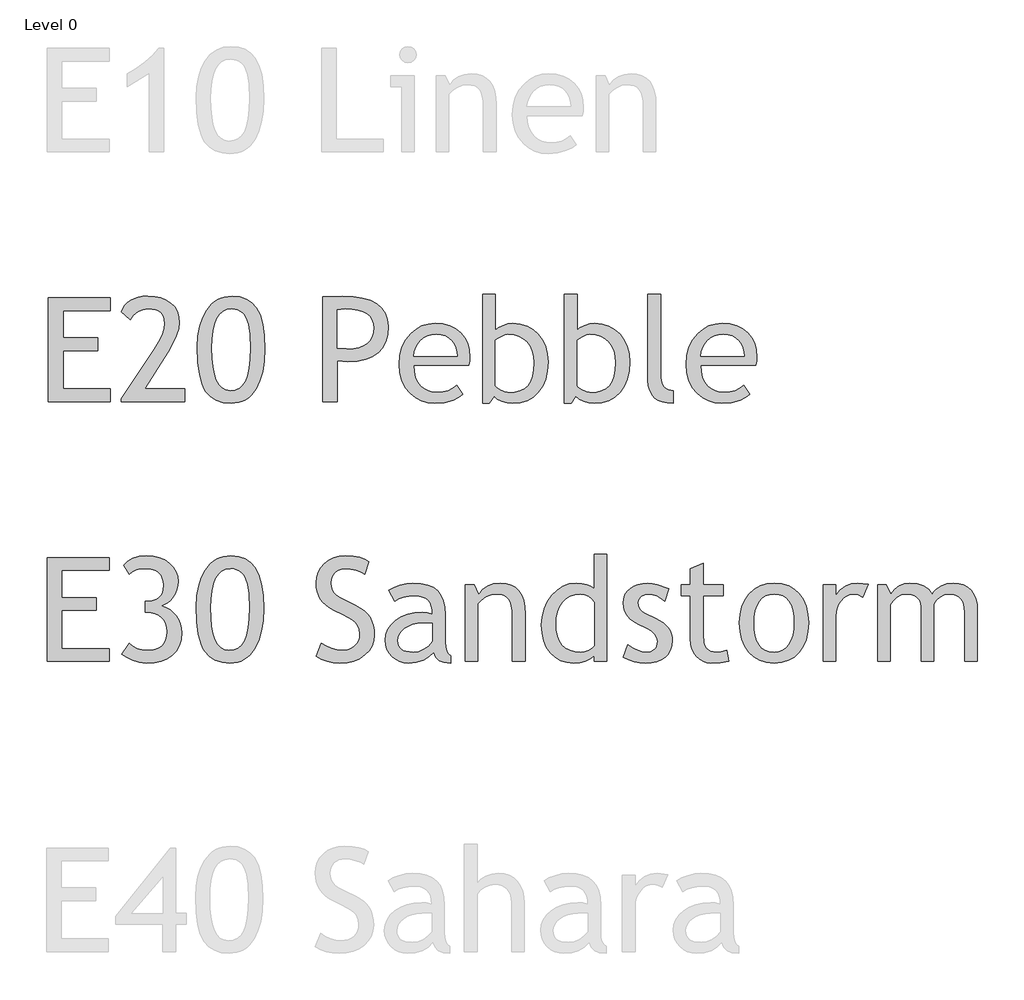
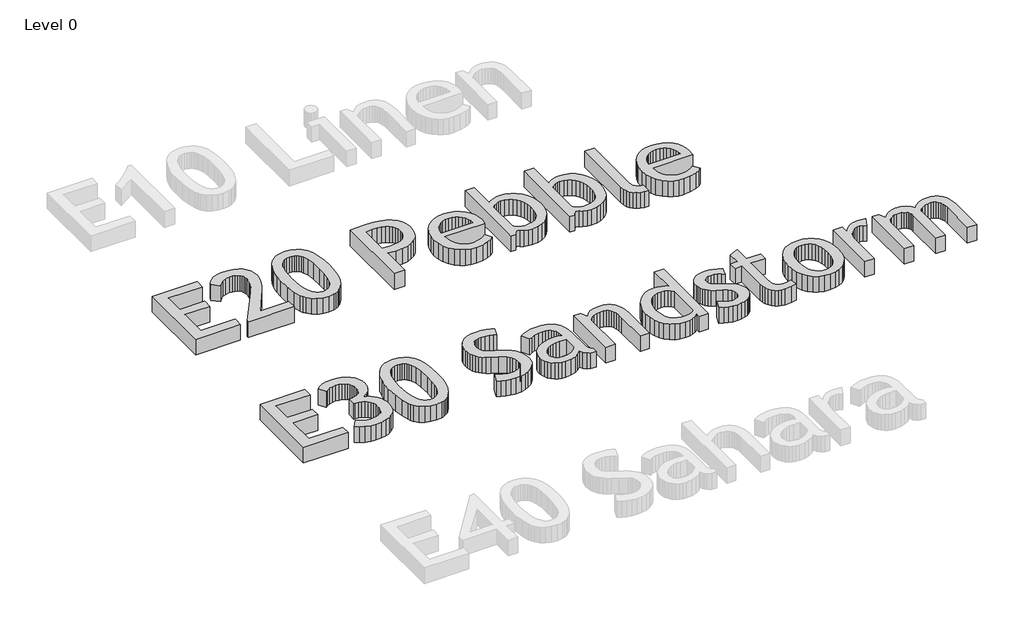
# One storey, part 4 of 5: 2 proxies.
"""IFC4 building model written with IfcOpenShell, lengths in millimetres."""

from ifc_helpers import new_model, si_unit, origin, origin_with_axes, place, context, project, spatial, polyline, outline, extrude, element, save

model = new_model("IFC4")

# Units and contexts
model_context = context("Model", 3, world=origin())
ifc_project = project(units=[si_unit("LENGTHUNIT", "METRE", prefix="MILLI")], contexts=[model_context])

# Site, building, storey
site = spatial("IfcSite", under=ifc_project)
building = spatial("IfcBuilding", under=site)
storey = spatial("IfcBuildingStorey", under=building, Name="Level 0", Elevation=0.0)

# Proxies
placement = place(None, origin())
element("IfcBuildingElementProxy", 1, Name="600mm Arial", ObjectType="600mm Arial", at=placement, inside=storey, context=model_context, shape_type="SweptSolid", body=[
    extrude(outline(polyline([(-18092.8509162, 3245.4135997), (-18092.8509162, 3067.447498), (-17867.4271874, 3067.447498), (-17867.4271874, 2984.3966505), (-18092.8509162, 2984.3966505), (-18092.8509162, 2735.2441082), (-17784.3763399, 2735.2441082), (-17784.3763399, 2652.1932607), (-18187.7661704, 2652.1932607), (-18187.7661704, 3328.4644471), (-17784.3763399, 3328.4644471), (-17784.3763399, 3245.4135997), (-18092.8509162, 3245.4135997)])), origin_with_axes(), (0.0, 0.0, 1.0), 150.0),
    extrude(outline(polyline([(-17713.1898992, 2652.1932607), (-17713.1898992, 2670.5460149), (-17496.4790941, 2992.5534302), (-17466.7138002, 3041.2392088), (-17445.4528759, 3086.0783243), (-17432.6963214, 3127.0707766), (-17428.4441365, 3164.2165658), (-17430.1096721, 3186.0278409), (-17435.106279, 3204.9309461), (-17443.4339571, 3220.9258812), (-17455.0927064, 3234.0126463), (-17470.082527, 3244.1912414), (-17488.4034188, 3251.4616664), (-17510.0553819, 3255.8239215), (-17535.0384162, 3257.2780065), (-17571.6744066, 3252.2263645), (-17605.9467848, 3237.0714387), (-17634.472341, 3214.2231865), (-17653.8678653, 3186.0915658), (-17713.1898992, 3237.25682), (-17703.4284122, 3259.6068597), (-17689.9013664, 3279.5701145), (-17672.6087618, 3297.1465843), (-17651.5505984, 3312.3362692), (-17627.4104699, 3324.583025), (-17600.8719702, 3333.3307077), (-17571.9350992, 3338.5793174), (-17540.5998569, 3340.3288539), (-17494.5905216, 3337.5191677), (-17453.8877276, 3329.0901092), (-17418.491475, 3315.0416783), (-17388.4017636, 3295.3738751), (-17364.394878, 3270.5617392), (-17347.2471026, 3241.0803105), (-17336.9584374, 3206.9295888), (-17333.5288823, 3168.1095743), (-17338.1054845, 3127.6153343), (-17351.8352912, 3082.1389704), (-17374.7183023, 3031.6804826), (-17406.7545179, 2976.2398709), (-17558.9526111, 2735.2441082), (-17297.9356619, 2735.2441082), (-17297.9356619, 2652.1932607), (-17713.1898992, 2652.1932607)])), origin_with_axes(), (0.0, 0.0, 1.0), 150.0),
    extrude(outline(polyline([(-17214.8848145, 3009.6085149), (-17211.1829805, 3079.3640433), (-17200.0774787, 3142.3647385), (-17181.5683089, 3198.6106005), (-17155.6554713, 3248.1016293), (-17123.0341458, 3288.4510401), (-17104.4684927, 3304.3025943), (-17084.3995126, 3317.2720478), (-17062.8272056, 3327.3594005), (-17039.7515716, 3334.5646524), (-16989.090323, 3340.3288539), (-16939.1995655, 3335.520525), (-16895.9361916, 3321.0955382), (-16859.3002011, 3297.0538936), (-16829.2915941, 3263.3955912), (-16805.9335433, 3217.7570186), (-16789.2492213, 3157.7745637), (-16779.238628, 3083.4482263), (-16775.9017636, 2994.7780065), (-16779.4008367, 2916.6745239), (-16789.898056, 2847.3534832), (-16807.3934215, 2786.8148841), (-16831.8869331, 2735.0587268), (-16863.1121053, 2693.6144074), (-16881.1491319, 2677.3327105), (-16900.8024522, 2664.0113221), (-16922.0720662, 2653.6502423), (-16944.9579739, 2646.249471), (-16995.5786704, 2640.3288539), (-17046.2630918, 2645.108217), (-17090.4244066, 2659.4463062), (-17128.0626151, 2683.3431217), (-17159.177717, 2716.7986632), (-17172.234068, 2738.101588), (-17183.5495722, 2763.7754575), (-17200.9580401, 2828.2360308), (-17211.4031209, 2910.1803833), (-17214.8848145, 3009.6085149)]), holes=[polyline([(-17119.9695603, 3001.0809726), (-17118.1244364, 2935.9947371), (-17112.589065, 2879.5866664), (-17103.363446, 2831.8567604), (-17090.4475793, 2792.8050192), (-17073.841465, 2762.4314426), (-17053.5451032, 2740.7360308), (-17029.5584936, 2727.7187837), (-17001.8816365, 2723.3797014), (-16970.3725992, 2727.2263645), (-16943.3243007, 2738.7663539), (-16920.7367411, 2757.9996696), (-16902.6099204, 2784.9263115), (-16888.7005256, 2821.4811977), (-16878.7652435, 2869.5992459), (-16872.8040743, 2929.2804561), (-16870.8170179, 3000.5248285), (-16873.8758103, 3092.6361897), (-16883.0521874, 3156.5232395), (-16899.0413293, 3200.2268942), (-16909.8513796, 3217.5252919), (-16922.5384162, 3231.78807), (-16937.06768, 3242.9399172), (-16953.4044119, 3250.9055224), (-16971.5486122, 3255.6848854), (-16991.5002806, 3257.2780065), (-17021.610268, 3253.2749278), (-17047.7055904, 3241.2656918), (-17069.7862479, 3221.2502986), (-17087.8522403, 3193.228748), (-17101.9035678, 3157.2010401), (-17111.9402303, 3113.1671749), (-17117.9622278, 3061.1271524), (-17119.9695603, 3001.0809726)])]), origin_with_axes(), (0.0, 0.0, 1.0), 150.0),
    extrude(outline(polyline([(-16301.3254925, 2917.8447437), (-16301.3254925, 2652.1932607), (-16396.2407467, 2652.1932607), (-16396.2407467, 3335.69432), (-16267.9568484, 3340.3288539), (-16197.9174548, 3337.2353025), (-16137.2166471, 3327.9546484), (-16085.8544252, 3312.4868915), (-16043.8307891, 3290.8320319), (-16011.1457387, 3262.9900695), (-15987.7992742, 3228.9610043), (-15973.7913955, 3188.7448364), (-15969.1221026, 3142.3415658), (-15973.2352515, 3088.6389042), (-15985.574698, 3042.0965976), (-16006.1404421, 3002.7146458), (-16034.932484, 2970.4930488), (-16071.9508235, 2945.4318068), (-16117.1954607, 2927.5309196), (-16170.6663955, 2916.7903873), (-16232.363628, 2913.2102099), (-16301.3254925, 2917.8447437)]), holes=[polyline([(-16301.3254925, 3252.6434726), (-16301.3254925, 3000.8955912), (-16238.4812128, 2996.2610573), (-16197.5959341, 2998.3900463), (-16162.1620258, 3004.7770133), (-16132.1794881, 3015.4219584), (-16107.6483208, 3030.3248815), (-16088.5685241, 3049.4857825), (-16074.9400979, 3072.9046617), (-16066.7630421, 3100.5815188), (-16064.0373569, 3132.5163539), (-16066.9455269, 3161.7573662), (-16075.6700369, 3187.0995769), (-16090.2108871, 3208.5429859), (-16110.5680772, 3226.0875933), (-16136.7416074, 3239.7333991), (-16168.7314776, 3249.4804032), (-16206.5376879, 3255.3286056), (-16250.1602382, 3257.2780065), (-16301.3254925, 3252.6434726)])]), origin_with_axes(), (0.0, 0.0, 1.0), 150.0),
    extrude(outline(polyline([(-15442.2682891, 2889.4813963), (-15803.0204077, 2889.4813963), (-15800.0311333, 2847.6547279), (-15791.0633103, 2810.9723921), (-15776.1169384, 2779.4343889), (-15755.1920179, 2753.0407183), (-15732.4712154, 2734.8733454), (-15706.7611386, 2721.8966505), (-15678.0617875, 2714.1106336), (-15646.3731619, 2711.5152946), (-15610.0384162, 2714.4813963), (-15576.8551535, 2723.3797014), (-15546.8233738, 2738.2102099), (-15519.9430772, 2758.9729217), (-15482.6814247, 2699.6508878), (-15508.7275052, 2679.0735573), (-15545.7110857, 2661.4623285), (-15601.9743272, 2645.6122226), (-15664.3551535, 2640.3288539), (-15709.750413, 2644.3493121), (-15751.5770814, 2656.4106865), (-15789.8351588, 2676.5129773), (-15824.524645, 2704.6561844), (-15856.6419649, 2743.2039201), (-15879.5829077, 2787.8460679), (-15893.3474734, 2838.5826278), (-15897.9356619, 2895.4135997), (-15893.2200237, 2954.6197702), (-15879.073109, 3007.6620107), (-15855.4949178, 3054.5403211), (-15822.4854501, 3095.2547014), (-15787.1934744, 3124.6144736), (-15748.7963611, 3145.5857395), (-15707.29411, 3158.168499), (-15662.6867213, 3162.3627522), (-15611.8458844, 3158.5276754), (-15566.8445603, 3147.022445), (-15527.6827488, 3127.847061), (-15494.3604501, 3101.0015234), (-15468.4881646, 3069.1159302), (-15450.0079607, 3032.4104217), (-15438.9198383, 2990.884998), (-15435.2237975, 2944.539659), (-15436.9849204, 2915.8518942), (-15442.2682891, 2889.4813963)]), holes=[polyline([(-15656.0129925, 3091.1763115), (-15685.280074, 3088.5346272), (-15712.0908526, 3080.6095743), (-15736.4453283, 3067.4011526), (-15758.3435009, 3048.9093624), (-15775.9431434, 3027.5673338), (-15789.255842, 3003.7690022), (-15798.2815968, 2977.5143677), (-15803.0204077, 2948.8034302), (-15518.274645, 2948.8034302), (-15520.4297033, 2977.2362957), (-15526.894878, 3003.2128582), (-15537.6701694, 3026.7331177), (-15552.7555772, 3047.7970743), (-15573.4603574, 3066.7754906), (-15597.57152, 3080.3315022), (-15625.089065, 3088.4651092), (-15656.0129925, 3091.1763115)])]), origin_with_axes(), (0.0, 0.0, 1.0), 150.0),
    extrude(outline(polyline([(-15277.8350264, 2685.3765234), (-15308.6083314, 2640.3288539), (-15352.1729501, 2640.3288539), (-15352.1729501, 3352.1932607), (-15269.1221026, 3352.1932607), (-15269.1221026, 3116.388176), (-15251.0242478, 3132.9102893), (-15221.9425475, 3147.9956971), (-15187.6701694, 3158.7709885), (-15154.0002806, 3162.3627522), (-15105.349261, 3157.8962202), (-15061.5413293, 3144.496624), (-15022.5764856, 3122.1639638), (-14988.4547297, 3090.8982395), (-14960.7170444, 3052.8197504), (-14940.9044119, 3010.0487957), (-14929.0168325, 2962.5853754), (-14925.054306, 2910.4294895), (-14928.9820735, 2850.8525562), (-14940.7653759, 2797.9956971), (-14960.4042133, 2751.8589122), (-14987.8985857, 2712.4422014), (-15022.1014458, 2680.8926119), (-15061.8657467, 2658.3571908), (-15107.1914882, 2644.8359381), (-15158.0786704, 2640.3288539), (-15192.6522933, 2643.6425457), (-15226.6697721, 2653.5836209), (-15256.3307891, 2668.15923), (-15277.8350264, 2685.3765234)]), holes=[polyline([(-15269.1221026, 3050.9485573), (-15269.1221026, 2754.1530065), (-15260.9421503, 2744.0728952), (-15236.4022933, 2729.0338327), (-15207.5986651, 2715.8949291), (-15186.6273992, 2711.5152946), (-15145.119355, 2714.3076013), (-15109.9490359, 2722.6845213), (-15081.1164419, 2736.6460547), (-15058.621573, 2756.1922014), (-15041.7113174, 2782.3077999), (-15029.6325634, 2815.9776887), (-15022.385311, 2857.2018677), (-15019.9695603, 2905.980337), (-15022.7908328, 2947.239275), (-15031.2546503, 2983.7014704), (-15045.3610128, 3015.3669233), (-15065.1099204, 3042.2356336), (-15089.6323979, 3063.6471802), (-15118.0594702, 3078.9411421), (-15150.3911373, 3088.1175192), (-15186.6273992, 3091.1763115), (-15205.9302329, 3087.5845478), (-15231.582378, 3076.8092565), (-15255.3807096, 3063.1605541), (-15269.1221026, 3050.9485573)])]), origin_with_axes(), (0.0, 0.0, 1.0), 150.0),
    extrude(outline(polyline([(-14743.9367213, 2685.3765234), (-14774.7100264, 2640.3288539), (-14818.274645, 2640.3288539), (-14818.274645, 3352.1932607), (-14735.2237975, 3352.1932607), (-14735.2237975, 3116.388176), (-14717.1259427, 3132.9102893), (-14688.0442425, 3147.9956971), (-14653.7718643, 3158.7709885), (-14620.1019755, 3162.3627522), (-14571.4509559, 3157.8962202), (-14527.6430242, 3144.496624), (-14488.6781805, 3122.1639638), (-14454.5564247, 3090.8982395), (-14426.8187393, 3052.8197504), (-14407.0061069, 3010.0487957), (-14395.1185274, 2962.5853754), (-14391.1560009, 2910.4294895), (-14395.0837684, 2850.8525562), (-14406.8670708, 2797.9956971), (-14426.5059082, 2751.8589122), (-14454.0002806, 2712.4422014), (-14488.2031408, 2680.8926119), (-14527.9674416, 2658.3571908), (-14573.2931831, 2644.8359381), (-14624.1803653, 2640.3288539), (-14658.7539882, 2643.6425457), (-14692.771467, 2653.5836209), (-14722.432484, 2668.15923), (-14743.9367213, 2685.3765234)]), holes=[polyline([(-14735.2237975, 3050.9485573), (-14735.2237975, 2754.1530065), (-14727.0438452, 2744.0728952), (-14702.5039882, 2729.0338327), (-14673.70036, 2715.8949291), (-14652.7290941, 2711.5152946), (-14611.2210499, 2714.3076013), (-14576.0507308, 2722.6845213), (-14547.2181368, 2736.6460547), (-14524.7232679, 2756.1922014), (-14507.8130123, 2782.3077999), (-14495.7342583, 2815.9776887), (-14488.487006, 2857.2018677), (-14486.0712552, 2905.980337), (-14488.8925277, 2947.239275), (-14497.3563452, 2983.7014704), (-14511.4627078, 3015.3669233), (-14531.2116153, 3042.2356336), (-14555.7340928, 3063.6471802), (-14584.1611651, 3078.9411421), (-14616.4928322, 3088.1175192), (-14652.7290941, 3091.1763115), (-14672.0319278, 3087.5845478), (-14697.684073, 3076.8092565), (-14721.4824045, 3063.1605541), (-14735.2237975, 3050.9485573)])]), origin_with_axes(), (0.0, 0.0, 1.0), 150.0),
    extrude(outline(polyline([(-14272.5119331, 2790.6731336), (-14272.5119331, 3352.1932607), (-14189.4610857, 3352.1932607), (-14189.4610857, 2808.8405065), (-14183.7142636, 2773.3631495), (-14176.5307361, 2758.7701609), (-14166.4737975, 2746.2742988), (-14154.099592, 2736.2579124), (-14139.9642636, 2729.1033507), (-14106.4102382, 2723.3797014), (-14106.4102382, 2640.3288539), (-14145.340323, 2642.6779833), (-14179.0797297, 2649.7253714), (-14207.6284586, 2661.4710182), (-14230.9865094, 2677.9149238), (-14249.1538823, 2699.0570882), (-14262.1305772, 2724.8975112), (-14269.9165941, 2755.436193), (-14272.5119331, 2790.6731336)])), origin_with_axes(), (0.0, 0.0, 1.0), 150.0),
    extrude(outline(polyline([(-13567.6920179, 2889.4813963), (-13928.4441365, 2889.4813963), (-13925.4548622, 2847.6547279), (-13916.4870391, 2810.9723921), (-13901.5406672, 2779.4343889), (-13880.6157467, 2753.0407183), (-13857.8949443, 2734.8733454), (-13832.1848675, 2721.8966505), (-13803.4855163, 2714.1106336), (-13771.7968908, 2711.5152946), (-13735.462145, 2714.4813963), (-13702.2788823, 2723.3797014), (-13672.2471026, 2738.2102099), (-13645.366806, 2758.9729217), (-13608.1051535, 2699.6508878), (-13634.151234, 2679.0735573), (-13671.1348145, 2661.4623285), (-13727.398056, 2645.6122226), (-13789.7788823, 2640.3288539), (-13835.1741418, 2644.3493121), (-13877.0008103, 2656.4106865), (-13915.2588876, 2676.5129773), (-13949.9483738, 2704.6561844), (-13982.0656937, 2743.2039201), (-14005.0066365, 2787.8460679), (-14018.7712022, 2838.5826278), (-14023.3593908, 2895.4135997), (-14018.6437525, 2954.6197702), (-14004.4968378, 3007.6620107), (-13980.9186466, 3054.5403211), (-13947.9091789, 3095.2547014), (-13912.6172033, 3124.6144736), (-13874.2200899, 3145.5857395), (-13832.7178389, 3158.168499), (-13788.1104501, 3162.3627522), (-13737.2696132, 3158.5276754), (-13692.2682891, 3147.022445), (-13653.1064776, 3127.847061), (-13619.7841789, 3101.0015234), (-13593.9118934, 3069.1159302), (-13575.4316895, 3032.4104217), (-13564.3435671, 2990.884998), (-13560.6475264, 2944.539659), (-13562.4086492, 2915.8518942), (-13567.6920179, 2889.4813963)]), holes=[polyline([(-13781.4367213, 3091.1763115), (-13810.7038028, 3088.5346272), (-13837.5145814, 3080.6095743), (-13861.8690571, 3067.4011526), (-13883.7672297, 3048.9093624), (-13901.3668722, 3027.5673338), (-13914.6795708, 3003.7690022), (-13923.7053256, 2977.5143677), (-13928.4441365, 2948.8034302), (-13643.6983738, 2948.8034302), (-13645.8534321, 2977.2362957), (-13652.3186069, 3003.2128582), (-13663.0938982, 3026.7331177), (-13678.179306, 3047.7970743), (-13698.8840862, 3066.7754906), (-13722.9952488, 3080.3315022), (-13750.5127938, 3088.4651092), (-13781.4367213, 3091.1763115)])]), origin_with_axes(), (0.0, 0.0, 1.0), 150.0),
])
element("IfcBuildingElementProxy", 2, Name="600mm Arial", ObjectType="600mm Arial", at=placement, inside=storey, context=model_context, shape_type="SweptSolid", body=[
    extrude(outline(polyline([(-18100.0923394, 1548.8906934), (-18100.0923394, 1370.9245917), (-17874.6686106, 1370.9245917), (-17874.6686106, 1287.8737442), (-18100.0923394, 1287.8737442), (-18100.0923394, 1038.7212019), (-17791.6177631, 1038.7212019), (-17791.6177631, 955.6703544), (-18195.0075936, 955.6703544), (-18195.0075936, 1631.9415408), (-17791.6177631, 1631.9415408), (-17791.6177631, 1548.8906934), (-18100.0923394, 1548.8906934)])), origin_with_axes(), (0.0, 0.0, 1.0), 150.0),
    extrude(outline(polyline([(-17708.5669157, 1003.1279815), (-17661.1092886, 1074.3144222), (-17636.3840502, 1053.5517103), (-17608.5536741, 1038.7212019), (-17577.6181604, 1029.8228968), (-17543.5775089, 1026.8567951), (-17512.7288926, 1028.7772301), (-17485.9934252, 1034.538535), (-17463.3711066, 1044.1407099), (-17444.8619369, 1057.5837548), (-17430.4659159, 1074.8676697), (-17420.1830438, 1095.9924545), (-17414.0133206, 1120.9581093), (-17411.9567462, 1149.7646341), (-17414.26822, 1176.5290673), (-17421.2026413, 1200.6518163), (-17432.7600102, 1222.1328809), (-17448.9403267, 1240.9722612), (-17468.9441336, 1256.3009821), (-17491.9719739, 1267.2500684), (-17518.0238476, 1273.8195202), (-17547.0997547, 1276.0093375), (-17554.3296275, 1276.0093375), (-17554.3296275, 1347.1957781), (-17550.2512377, 1347.1957781), (-17523.3999069, 1348.8265548), (-17500.1287536, 1353.7188846), (-17480.4377777, 1361.8727677), (-17464.3269792, 1373.288204), (-17451.7963582, 1387.9651935), (-17442.8459146, 1405.9037363), (-17437.4756485, 1427.1038323), (-17435.6855597, 1451.5654815), (-17437.5741323, 1477.1567984), (-17443.23985, 1499.3359397), (-17452.6827128, 1518.1029054), (-17465.9027208, 1533.4576955), (-17482.8998738, 1545.40031), (-17503.674172, 1553.930749), (-17528.2256154, 1559.0490124), (-17556.5542038, 1560.7551002), (-17587.6982716, 1558.5305239), (-17615.505475, 1551.8567951), (-17639.975814, 1540.7339137), (-17661.1092886, 1525.1618798), (-17696.7025089, 1584.4839137), (-17670.7259464, 1610.4373036), (-17637.2877843, 1628.9754392), (-17596.3880227, 1640.0983205), (-17548.0266614, 1643.8059476), (-17504.3461794, 1640.8514323), (-17464.8831233, 1631.9878862), (-17429.637493, 1617.2153094), (-17398.6092886, 1596.5337019), (-17373.3047335, 1571.2291468), (-17355.2300513, 1542.5877273), (-17344.3852419, 1510.6094434), (-17340.7703055, 1475.2942951), (-17342.7631551, 1448.0084768), (-17348.7417038, 1422.3215726), (-17358.7059517, 1398.2335827), (-17372.6558987, 1375.744507), (-17389.2938754, 1355.8391839), (-17407.3222123, 1339.5024519), (-17426.7409093, 1326.734311), (-17447.5499665, 1317.5347612), (-17419.1460669, 1306.3191892), (-17393.812546, 1291.7667527), (-17371.5494038, 1273.8774519), (-17352.3566402, 1252.6512866), (-17336.9062629, 1228.5517103), (-17325.870279, 1202.0421764), (-17319.2486887, 1173.1226849), (-17317.0414919, 1141.7932358), (-17320.8360166, 1097.1221222), (-17332.2195905, 1057.8386542), (-17351.1922136, 1023.9428319), (-17377.753886, 995.4346553), (-17411.1630822, 972.8470957), (-17450.6782769, 956.7131245), (-17496.29947, 947.0327419), (-17548.0266614, 943.8059476), (-17593.699993, 948.1624095), (-17638.4000724, 961.2317951), (-17678.0485099, 980.4187654), (-17708.5669157, 1003.1279815)])), origin_with_axes(), (0.0, 0.0, 1.0), 150.0),
    extrude(outline(polyline([(-17222.1262377, 1313.0856086), (-17218.4244038, 1382.841137), (-17207.3189019, 1445.8418322), (-17188.8097321, 1502.0876942), (-17162.8968945, 1551.5787231), (-17130.275569, 1591.9281338), (-17111.7099159, 1607.779688), (-17091.6409358, 1620.7491415), (-17070.0686288, 1630.8364942), (-17046.9929949, 1638.0417461), (-16996.3317462, 1643.8059476), (-16946.4409888, 1638.9976187), (-16903.1776148, 1624.572632), (-16866.5416244, 1600.5309874), (-16836.5330174, 1566.8726849), (-16813.1749665, 1521.2341124), (-16796.4906445, 1461.2516574), (-16786.4800513, 1386.92532), (-16783.1431869, 1298.2551002), (-16786.6422599, 1220.1516176), (-16797.1394792, 1150.8305769), (-16814.6348447, 1090.2919778), (-16839.1283563, 1038.5358205), (-16870.3535285, 997.0915011), (-16888.3905551, 980.8098042), (-16908.0438754, 967.4884158), (-16929.3134894, 957.127336), (-16952.1993971, 949.7265647), (-17002.8200936, 943.8059476), (-17053.504515, 948.5853107), (-17097.6658299, 962.9234), (-17135.3040383, 986.8202154), (-17166.4191402, 1020.275757), (-17179.4754912, 1041.5786817), (-17190.7909954, 1067.2525512), (-17208.1994633, 1131.7131245), (-17218.6445441, 1213.657477), (-17222.1262377, 1313.0856086)]), holes=[polyline([(-17127.2109835, 1304.5580663), (-17125.3658597, 1239.4718308), (-17119.8304882, 1183.0637601), (-17110.6048692, 1135.3338541), (-17097.6890025, 1096.2821129), (-17081.0828883, 1065.9085363), (-17060.7865264, 1044.2131245), (-17036.7999169, 1031.1958774), (-17009.1230597, 1026.8567951), (-16977.6140224, 1030.7034582), (-16950.5657239, 1042.2434476), (-16927.9781643, 1061.4767633), (-16909.8513436, 1088.4034053), (-16895.9419488, 1124.9582914), (-16886.0066667, 1173.0763396), (-16880.0454975, 1232.7575499), (-16878.0584411, 1304.0019222), (-16881.1172335, 1396.1132834), (-16890.2936106, 1460.0003332), (-16906.2827525, 1503.7039879), (-16917.0928029, 1521.0023857), (-16929.7798394, 1535.2651637), (-16944.3091032, 1546.4170109), (-16960.6458352, 1554.3826161), (-16978.7900354, 1559.1619791), (-16998.7417038, 1560.7551002), (-17028.8516912, 1556.7520215), (-17054.9470137, 1544.7427856), (-17077.0276711, 1524.7273923), (-17095.0936636, 1496.7058417), (-17109.144991, 1460.6781338), (-17119.1816535, 1416.6442686), (-17125.203651, 1364.6042461), (-17127.2109835, 1304.5580663)])]), origin_with_axes(), (0.0, 0.0, 1.0), 150.0),
    extrude(outline(polyline([(-16439.0753902, 987.3705663), (-16405.5213648, 1074.3144222), (-16376.764082, 1055.7531139), (-16341.6574877, 1040.4823247), (-16305.3922599, 1030.2631775), (-16273.1590767, 1026.8567951), (-16247.6054154, 1028.7048155), (-16224.7050248, 1034.2488767), (-16204.4579048, 1043.4889786), (-16186.8640555, 1056.4251214), (-16172.6302433, 1072.2230888), (-16162.4632345, 1090.0486648), (-16156.3630293, 1109.9018494), (-16154.3296275, 1131.7826425), (-16158.8251254, 1164.7110059), (-16172.3116191, 1195.275757), (-16184.7089972, 1210.2974399), (-16203.9191402, 1225.979544), (-16262.7777208, 1259.3250154), (-16316.538314, 1284.7222612), (-16348.1574215, 1301.6846553), (-16374.6090237, 1320.1301002), (-16395.8931206, 1340.0585959), (-16412.0097123, 1361.4701425), (-16423.8509464, 1384.7586754), (-16432.3089708, 1410.3181298), (-16437.3837854, 1438.1485059), (-16439.0753902, 1468.2498036), (-16435.7559053, 1504.538204), (-16425.7974506, 1537.5824307), (-16409.2000261, 1567.3824836), (-16385.9636318, 1593.9383629), (-16357.5249731, 1615.7554312), (-16325.3207557, 1631.3390514), (-16289.3509795, 1640.6892236), (-16249.6156445, 1643.8059476), (-16198.2418362, 1641.4886807), (-16155.349225, 1634.5368798), (-16120.9378108, 1622.9505451), (-16095.0075936, 1606.7296764), (-16121.7025089, 1525.1618798), (-16144.4348977, 1537.3738767), (-16176.6680809, 1549.1687654), (-16212.3308193, 1557.8585165), (-16245.3518733, 1560.7551002), (-16267.1168031, 1559.1156338), (-16286.4370163, 1554.1972347), (-16303.3125129, 1545.9999029), (-16317.7432928, 1534.5236383), (-16329.3006617, 1520.4752074), (-16337.5559252, 1504.5613767), (-16342.5090833, 1486.782146), (-16344.160136, 1467.1375154), (-16341.7733511, 1442.8757305), (-16334.6129962, 1420.8848671), (-16323.1656974, 1401.7442421), (-16307.9180809, 1386.0331722), (-16281.8024824, 1369.1866415), (-16237.7512377, 1346.6396341), (-16183.0637377, 1320.3154815), (-16151.4098712, 1303.1155676), (-16124.8539919, 1284.3283258), (-16103.3961, 1263.9537562), (-16087.0361953, 1241.9918586), (-16074.9516482, 1217.6895215), (-16066.3198288, 1190.293633), (-16061.1407372, 1159.8041931), (-16059.4143733, 1126.2212019), (-16063.2494501, 1089.5678319), (-16074.7546805, 1055.7994593), (-16093.9300645, 1024.916084), (-16120.7756021, 996.9177061), (-16154.0399692, 973.6813118), (-16192.4718415, 957.0838872), (-16236.0712192, 947.1254325), (-16284.8381021, 943.8059476), (-16328.3332027, 946.5287363), (-16368.5377843, 954.6971023), (-16405.4518468, 968.3110456), (-16439.0753902, 987.3705663)])), origin_with_axes(), (0.0, 0.0, 1.0), 150.0),
    extrude(outline(polyline([(-15671.9673394, 1014.9923883), (-15702.9260258, 983.8483205), (-15741.1145852, 961.6025578), (-15786.5330174, 948.2551002), (-15839.1813224, 943.8059476), (-15868.3904723, 946.4939773), (-15895.5836, 954.5580663), (-15920.7607054, 967.9982146), (-15943.9217886, 986.8144222), (-15963.3057266, 1009.6279153), (-15977.1513966, 1035.0599201), (-15985.4587986, 1063.1104365), (-15988.2279326, 1093.7794646), (-15983.9467819, 1130.5776637), (-15971.1033299, 1164.4097612), (-15949.6975764, 1195.275757), (-15919.7295216, 1223.175651), (-15883.122497, 1246.2903888), (-15841.7998341, 1262.8009158), (-15795.761533, 1272.7072321), (-15745.0075936, 1276.0093375), (-15714.3269792, 1273.0432358), (-15679.7533563, 1264.1449307), (-15681.5144792, 1291.9521341), (-15686.7978479, 1316.0517103), (-15695.6034623, 1336.4436595), (-15707.9313224, 1353.1279815), (-15723.7814284, 1366.1046764), (-15743.1537801, 1375.3737442), (-15766.0483775, 1380.9351849), (-15792.4652208, 1382.7889985), (-15833.2491191, 1380.5644222), (-15869.0277208, 1373.8906934), (-15899.8010258, 1362.767812), (-15925.5690343, 1347.1957781), (-15964.4991191, 1418.3822188), (-15934.003886, 1436.4800737), (-15893.6834411, 1451.8435536), (-15849.4236424, 1462.3407728), (-15807.1103479, 1465.8398459), (-15755.6496421, 1462.7405014), (-15711.7548129, 1453.4424678), (-15675.4258603, 1437.945745), (-15646.6627843, 1416.2503332), (-15624.8051638, 1387.8116746), (-15609.1925777, 1352.0852114), (-15599.8250261, 1309.0709437), (-15596.7025089, 1258.7688714), (-15596.7025089, 1079.1343375), (-15594.4779326, 1048.9635218), (-15587.8042038, 1024.2614561), (-15576.6813224, 1005.0281404), (-15561.1092886, 991.2635747), (-15561.1092886, 943.8059476), (-15605.0214972, 947.9306828), (-15636.2814284, 960.3048883), (-15657.6698023, 982.2262336), (-15671.9673394, 1014.9923883)]), holes=[polyline([(-15679.7533563, 1204.8228968), (-15742.597636, 1204.8228968), (-15776.8236688, 1202.7141839), (-15807.7591826, 1196.3880451), (-15835.4041773, 1185.8444805), (-15859.758653, 1171.08349), (-15879.629217, 1153.4375022), (-15893.8224771, 1134.2389455), (-15902.3384331, 1113.48782), (-15905.1770852, 1091.1841256), (-15903.6418958, 1073.3266872), (-15899.0363277, 1057.8502405), (-15891.360381, 1044.7547857), (-15880.6140555, 1034.0403226), (-15866.7973513, 1025.7068514), (-15849.9102684, 1019.7543719), (-15806.9249665, 1014.9923883), (-15772.0732716, 1019.4415408), (-15739.2607716, 1032.7889985), (-15708.4874665, 1055.0347612), (-15679.7533563, 1086.178829), (-15679.7533563, 1204.8228968)])]), origin_with_axes(), (0.0, 0.0, 1.0), 150.0),
    extrude(outline(polyline([(-15157.719458, 955.6703544), (-15157.719458, 1249.4998036), (-15159.2662337, 1286.7962151), (-15163.9065608, 1318.0445599), (-15171.6404392, 1343.244838), (-15182.4678691, 1362.3970493), (-15196.933408, 1376.509205), (-15215.5816138, 1386.5893163), (-15238.4124864, 1392.637383), (-15265.4260258, 1394.6534053), (-15297.3116191, 1390.0652167), (-15330.6802631, 1376.300651), (-15360.8510788, 1355.8160112), (-15383.1431869, 1331.0676002), (-15383.1431869, 955.6703544), (-15466.1940343, 955.6703544), (-15466.1940343, 1453.9754392), (-15406.3158563, 1453.9754392), (-15378.508653, 1390.0188714), (-15353.4705836, 1423.1905477), (-15321.5502313, 1446.8846023), (-15282.7475963, 1461.101035), (-15237.0626784, 1465.8398459), (-15199.0015687, 1462.7115356), (-15166.0152737, 1453.3266044), (-15138.1037933, 1437.6850525), (-15115.2671275, 1415.7868798), (-15097.5052764, 1387.6320864), (-15084.8182398, 1353.2206722), (-15077.2060179, 1312.5526372), (-15074.6686106, 1265.6279815), (-15074.6686106, 955.6703544), (-15157.719458, 955.6703544)])), origin_with_axes(), (0.0, 0.0, 1.0), 150.0),
    extrude(outline(polyline([(-14623.821153, 955.6703544), (-14623.821153, 992.1904815), (-14649.5080571, 971.0222479), (-14680.4088119, 955.9020811), (-14716.5234173, 946.829981), (-14757.8518733, 943.8059476), (-14802.4476757, 948.040753), (-14842.6174983, 960.745169), (-14878.361341, 981.9191958), (-14909.6792038, 1011.5628332), (-14935.1459676, 1048.2625485), (-14953.3365131, 1090.6048089), (-14964.2508405, 1138.5896142), (-14967.8889496, 1192.2169646), (-14963.7004896, 1246.7828081), (-14951.1351095, 1297.21233), (-14930.1928095, 1343.5055305), (-14900.8735894, 1385.6624095), (-14865.761202, 1420.7400379), (-14827.4393998, 1445.7954868), (-14785.9081829, 1460.8287562), (-14741.1675513, 1465.8398459), (-14704.8443918, 1463.5805107), (-14673.178939, 1456.8025048), (-14646.1711927, 1445.5058285), (-14623.821153, 1429.6904815), (-14623.821153, 1655.6703544), (-14540.7703055, 1655.6703544), (-14540.7703055, 955.6703544), (-14623.821153, 955.6703544)]), holes=[polyline([(-14623.821153, 1342.7466256), (-14642.0232848, 1365.4558417), (-14663.2610364, 1381.6767103), (-14687.5344077, 1391.4092315), (-14714.8433987, 1394.6534053), (-14748.5538397, 1391.2354365), (-14778.8694845, 1380.9815303), (-14805.7903333, 1363.8916865), (-14829.316386, 1339.9659053), (-14848.4164588, 1310.7567554), (-14862.059368, 1277.8168057), (-14870.2451135, 1241.1460562), (-14872.9736953, 1200.744507), (-14870.4304949, 1157.2088541), (-14862.8008934, 1119.477955), (-14850.084891, 1087.5518097), (-14832.2824877, 1061.430418), (-14809.3936834, 1041.11378), (-14781.4184782, 1026.6018957), (-14748.356872, 1017.8947652), (-14710.2088648, 1014.9923883), (-14687.3606127, 1018.4219434), (-14660.3412801, 1028.7106086), (-14636.6588119, 1042.7995917), (-14623.821153, 1057.6301002), (-14623.821153, 1342.7466256)])]), origin_with_axes(), (0.0, 0.0, 1.0), 150.0),
    extrude(outline(polyline([(-14433.9906445, 981.6237442), (-14403.7734835, 1062.4500154), (-14369.5706233, 1041.6873036), (-14338.8900089, 1026.8567951), (-14311.7316402, 1017.95849), (-14288.0955174, 1014.9923883), (-14253.3017541, 1019.4299545), (-14228.4490661, 1032.7426531), (-14219.7506253, 1042.7271771), (-14213.5374533, 1054.9304842), (-14208.5669157, 1085.9934476), (-14213.4331763, 1110.4985456), (-14228.031958, 1133.2193481), (-14252.363261, 1154.1558549), (-14286.4270852, 1173.3080663), (-14336.6886053, 1198.1028226), (-14367.346047, 1216.1311595), (-14386.8110894, 1231.7727114), (-14403.4954114, 1249.4071129), (-14416.8660417, 1268.6172559), (-14426.3900089, 1288.9860324), (-14432.0904856, 1310.7219964), (-14433.9906445, 1334.0337019), (-14431.2157173, 1363.3818878), (-14422.8909358, 1389.3236913), (-14409.0162999, 1411.8591124), (-14389.5918097, 1430.988151), (-14365.6949943, 1446.2357675), (-14338.4033828, 1457.1269222), (-14307.7169753, 1463.661615), (-14273.6357716, 1465.8398459), (-14244.8900751, 1463.6500287), (-14212.5989602, 1457.0805769), (-14137.380475, 1430.8027697), (-14162.0361953, 1347.1957781), (-14187.8389628, 1367.95849), (-14213.7112483, 1382.7889985), (-14239.6530518, 1391.6873036), (-14265.6643733, 1394.6534053), (-14294.1899294, 1390.8067421), (-14317.849225, 1379.2667527), (-14333.7688489, 1361.8872506), (-14339.0753902, 1340.5220493), (-14335.7269395, 1317.2798618), (-14325.6815873, 1297.0501214), (-14308.9393336, 1279.8328279), (-14285.5001784, 1265.6279815), (-14223.2120428, 1235.7815832), (-14173.7152208, 1207.0243004), (-14154.8063224, 1191.2379193), (-14139.7904326, 1174.5130451), (-14128.3547202, 1156.235602), (-14120.1863542, 1135.7915144), (-14115.2853346, 1113.1807821), (-14113.6516614, 1088.4034053), (-14116.542452, 1056.3208443), (-14125.2148235, 1027.9227379), (-14139.6687761, 1003.2090859), (-14159.9043097, 982.1798883), (-14185.2725897, 965.3912893), (-14215.1247811, 953.3994328), (-14249.4608842, 946.2043189), (-14288.2808987, 943.8059476), (-14326.4462854, 946.1695599), (-14363.4530386, 953.2603968), (-14399.3011583, 965.0784582), (-14433.9906445, 981.6237442)])), origin_with_axes(), (0.0, 0.0, 1.0), 150.0),
    extrude(outline(polyline([(-13995.0075936, 1382.7889985), (-14054.3296275, 1382.7889985), (-14054.3296275, 1453.9754392), (-13995.0075936, 1453.9754392), (-13995.0075936, 1561.3112442), (-13911.9567462, 1596.3483205), (-13911.9567462, 1453.9754392), (-13781.4482716, 1453.9754392), (-13781.4482716, 1382.7889985), (-13911.9567462, 1382.7889985), (-13911.9567462, 1132.3387866), (-13906.8587589, 1077.9293586), (-13900.4862748, 1057.6069275), (-13891.564797, 1041.8726849), (-13879.8162536, 1030.1125551), (-13864.9625724, 1021.7124625), (-13847.0037536, 1016.6724068), (-13825.939797, 1014.9923883), (-13792.7565343, 1017.95849), (-13758.4609835, 1026.8567951), (-13745.8550513, 956.4118798), (-13800.8206233, 946.9574307), (-13860.7914919, 943.8059476), (-13887.9556538, 946.5634953), (-13912.9068256, 954.8361383), (-13935.6450076, 968.6238767), (-13956.1701996, 987.9267103), (-13973.1615595, 1011.4237972), (-13985.2982451, 1037.7942951), (-13992.5802565, 1067.038204), (-13995.0075936, 1099.1555239), (-13995.0075936, 1382.7889985)])), origin_with_axes(), (0.0, 0.0, 1.0), 150.0),
    extrude(outline(polyline([(-13674.6686106, 1205.9351849), (-13670.7871884, 1261.4279352), (-13659.142922, 1311.3013131), (-13639.7358113, 1355.5553187), (-13612.5658563, 1394.1899519), (-13579.0581763, 1425.5367805), (-13540.6378902, 1447.9273724), (-13497.3049983, 1461.3617276), (-13449.0595004, 1465.8398459), (-13398.4909424, 1461.5355226), (-13353.9356922, 1448.6225525), (-13315.3937496, 1427.1009357), (-13282.8651148, 1396.9706722), (-13257.0333815, 1359.2050141), (-13238.5821434, 1314.7772135), (-13227.5114006, 1263.6872705), (-13223.821153, 1205.9351849), (-13227.6040913, 1148.3395149), (-13238.9529061, 1097.1626743), (-13257.8675976, 1052.4046632), (-13284.3481657, 1014.0654815), (-13317.3402539, 983.3269354), (-13355.7895057, 961.3708311), (-13399.6959212, 948.1971685), (-13449.0595004, 943.8059476), (-13499.3384, 948.2377207), (-13543.7662006, 961.5330398), (-13582.3429022, 983.691905), (-13615.0685047, 1014.7143163), (-13641.143551, 1053.2562588), (-13659.7685841, 1097.9737178), (-13670.943604, 1148.8666931), (-13674.6686106, 1205.9351849)]), holes=[polyline([(-13579.7533563, 1205.9351849), (-13577.7112648, 1161.182967), (-13571.5849904, 1122.3977114), (-13561.3745329, 1089.5794182), (-13547.0798924, 1062.7280875), (-13528.7010689, 1041.8437191), (-13506.2380624, 1026.9263131), (-13479.6908729, 1017.9758695), (-13449.0595004, 1014.9923883), (-13420.2095269, 1018.1902167), (-13394.6500724, 1027.7837019), (-13372.3811371, 1043.7728438), (-13353.4027208, 1066.1576425), (-13338.2362086, 1094.0807093), (-13327.4029856, 1126.6846553), (-13320.9030518, 1163.9694805), (-13318.7364072, 1205.9351849), (-13320.7727055, 1250.1660178), (-13326.8816005, 1288.4994063), (-13337.0630922, 1320.9353504), (-13351.3171805, 1347.4738502), (-13369.6438655, 1368.1149055), (-13392.0431471, 1382.8585165), (-13418.5150254, 1391.7046831), (-13449.0595004, 1394.6534053), (-13477.3185709, 1391.5135085), (-13502.5883669, 1382.0938184), (-13524.8688887, 1366.3943348), (-13544.160136, 1344.4150578), (-13559.7321699, 1316.9206854), (-13570.8550513, 1284.6759158), (-13577.5287801, 1247.680749), (-13579.7533563, 1205.9351849)])]), origin_with_axes(), (0.0, 0.0, 1.0), 150.0),
    extrude(outline(polyline([(-12869.3720004, 1374.6322188), (-12898.430528, 1389.6481086), (-12927.7671275, 1394.6534053), (-12950.7370362, 1392.0059278), (-12972.1891349, 1384.0634953), (-12992.1234239, 1370.8261079), (-13010.539903, 1352.2937654), (-13025.9902803, 1330.0306232), (-13037.0262642, 1305.6008364), (-13043.6478545, 1279.004405), (-13045.8550513, 1250.241329), (-13045.8550513, 955.6703544), (-13128.9058987, 955.6703544), (-13128.9058987, 1453.9754392), (-13045.8550513, 1453.9754392), (-13045.8550513, 1382.7889985), (-13018.5228876, 1419.1237442), (-12985.2816932, 1445.0771341), (-12946.1314681, 1460.649168), (-12901.0722123, 1465.8398459), (-12832.2957292, 1457.8684476), (-12869.3720004, 1374.6322188)])), origin_with_axes(), (0.0, 0.0, 1.0), 150.0),
    extrude(outline(polyline([(-12203.4821699, 955.6703544), (-12203.4821699, 1275.267812), (-12205.0868773, 1303.2488104), (-12209.9009994, 1327.4990091), (-12217.9245362, 1348.0184079), (-12229.1574877, 1364.807007), (-12243.599854, 1377.8648062), (-12261.2516349, 1387.1918057), (-12282.1128307, 1392.7880054), (-12306.1834411, 1394.6534053), (-12337.5360629, 1389.6481086), (-12366.7104538, 1374.6322188), (-12390.3697494, 1353.2206722), (-12405.1770852, 1329.0284053), (-12405.1770852, 955.6703544), (-12488.2279326, 955.6703544), (-12488.2279326, 1314.5686595), (-12489.971676, 1332.2088541), (-12495.2029061, 1347.8677856), (-12503.921623, 1361.5454537), (-12516.1278267, 1373.2418586), (-12531.2074414, 1382.6094103), (-12548.5463913, 1389.3005186), (-12590.002297, 1394.6534053), (-12617.6009464, 1389.0919646), (-12647.007064, 1372.4076425), (-12672.8909358, 1349.0495917), (-12689.9228479, 1323.4669646), (-12689.9228479, 955.6703544), (-12772.9736953, 955.6703544), (-12772.9736953, 1453.9754392), (-12716.4323818, 1453.9754392), (-12687.6982716, 1394.6534053), (-12661.0149427, 1425.7974731), (-12631.2033034, 1448.0432358), (-12598.2633537, 1461.3906934), (-12562.1950936, 1465.8398459), (-12513.6599374, 1461.3906934), (-12472.9803161, 1448.0432358), (-12440.1562298, 1425.7974731), (-12415.1876784, 1394.6534053), (-12406.3009596, 1409.2290144), (-12394.2859305, 1422.5532993), (-12360.8709411, 1445.4478968), (-12320.6431869, 1460.7418586), (-12279.3031445, 1465.8398459), (-12243.5361291, 1462.9606417), (-12212.0560576, 1454.3230292), (-12184.86293, 1439.9270083), (-12161.9567462, 1419.772579), (-12143.7893733, 1394.4158854), (-12130.8126784, 1364.4130716), (-12123.0266614, 1329.7641375), (-12120.4313224, 1290.4690832), (-12120.4313224, 955.6703544), (-12203.4821699, 955.6703544)])), origin_with_axes(), (0.0, 0.0, 1.0), 150.0),
])

save(model, "model.ifc")
